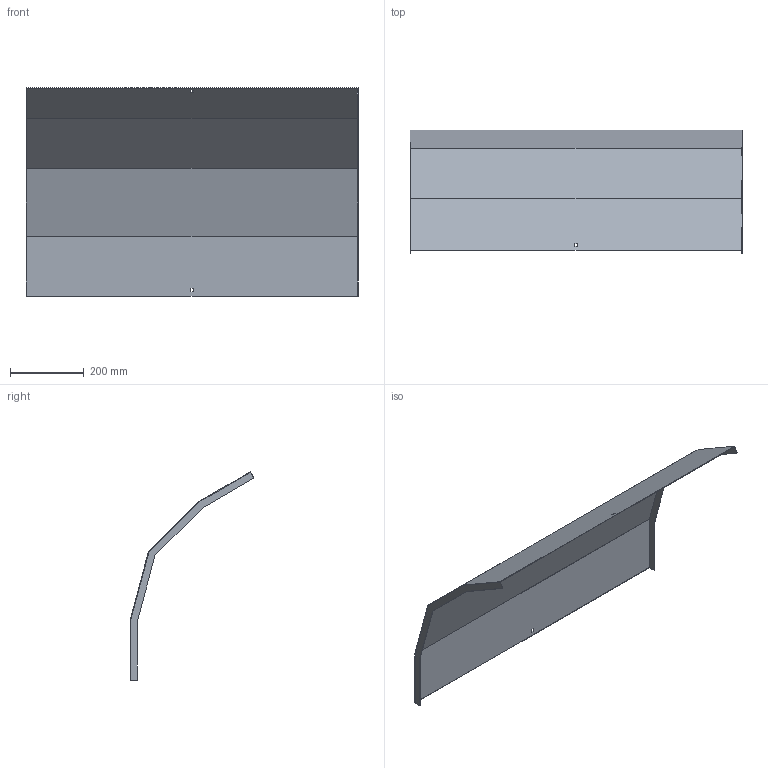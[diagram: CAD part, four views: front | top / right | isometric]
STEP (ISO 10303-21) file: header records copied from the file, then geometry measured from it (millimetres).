
FILE_DESCRIPTION (( 'STEP AP214' ), '1' );
FILE_NAME ('A2_41N3C900.step', '2025-02-21T10:39:36', ( '' ), ( '' ), 'SwSTEP 2.0', 'SolidWorks 2023', '' );
FILE_SCHEMA (( 'AUTOMOTIVE_DESIGN' ));
Length unit declared in the file: millimetre
Products named in the file (1): A2_41N3C900
Bounding box: 903 x 337.26 x 566.83 mm (x, y, z)
Volume: 1000973.9 mm3; surface area: 1339617.3 mm2
Topology: 1 solids, 1 shells, 30 faces, 84 edges, 56 vertices
Faces by surface type: plane 30
Entity records: 979 total; most frequent: CARTESIAN_POINT 171, ORIENTED_EDGE 168, DIRECTION 146, LINE 84, VECTOR 84, EDGE_CURVE 84, VERTEX_POINT 56, EDGE_LOOP 34
